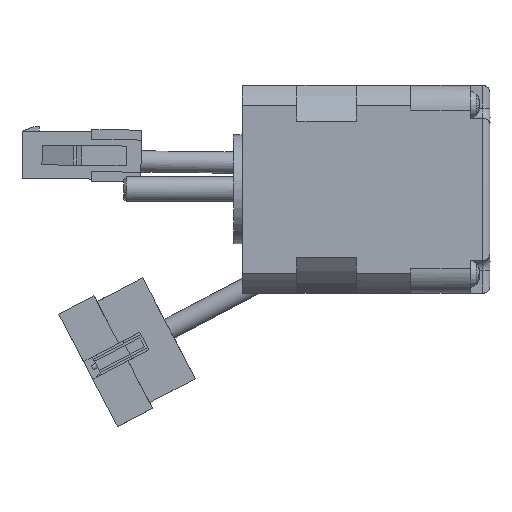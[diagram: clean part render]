
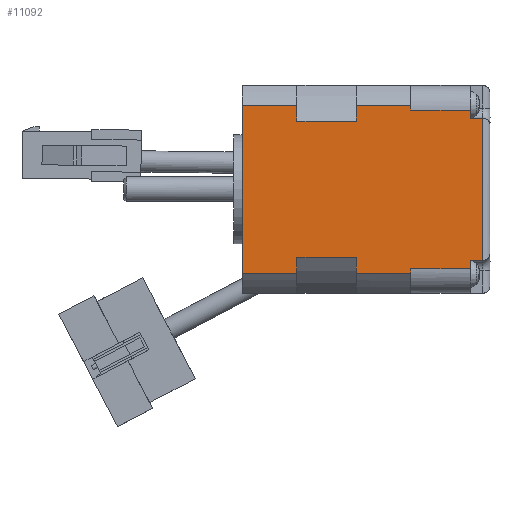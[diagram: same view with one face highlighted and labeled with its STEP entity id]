
A CAD part, front view. The second image highlights one B-rep face of the part: STEP entity #11092.
In plain terms, the highlighted planar face has unit normal (0, -1, 0).
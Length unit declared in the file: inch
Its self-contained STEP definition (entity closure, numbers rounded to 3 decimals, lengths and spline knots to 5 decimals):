
#50=LINE('',#16056,#1049);
#54=LINE('',#16066,#1053);
#82=LINE('',#16316,#1081);
#708=LINE('',#18412,#1707);
#710=LINE('',#18418,#1709);
#711=LINE('',#18422,#1710);
#713=LINE('',#18428,#1712);
#718=LINE('',#18448,#1717);
#720=LINE('',#18454,#1719);
#722=LINE('',#18460,#1721);
#724=LINE('',#18467,#1723);
#726=LINE('',#18472,#1725);
#756=LINE('',#18555,#1755);
#757=LINE('',#18558,#1756);
#758=LINE('',#18559,#1757);
#759=LINE('',#18561,#1758);
#760=LINE('',#18562,#1759);
#761=LINE('',#18564,#1760);
#762=LINE('',#18566,#1761);
#763=LINE('',#18567,#1762);
#1049=VECTOR('',#12646,0.06299);
#1053=VECTOR('',#12656,0.09843);
#1081=VECTOR('',#12822,0.06299);
#1707=VECTOR('',#14650,0.47244);
#1709=VECTOR('',#14656,0.12615);
#1710=VECTOR('',#14661,0.43307);
#1712=VECTOR('',#14667,1.33626);
#1717=VECTOR('',#14686,0.43307);
#1719=VECTOR('',#14692,0.12615);
#1721=VECTOR('',#14698,0.47244);
#1723=VECTOR('',#14706,0.12615);
#1725=VECTOR('',#14710,0.12615);
#1755=VECTOR('',#14778,0.43307);
#1756=VECTOR('',#14781,0.03821);
#1757=VECTOR('',#14782,0.47244);
#1758=VECTOR('',#14783,0.09843);
#1759=VECTOR('',#14784,1.13386);
#1760=VECTOR('',#14785,0.47244);
#1761=VECTOR('',#14786,0.03821);
#1762=VECTOR('',#14787,0.43307);
#2726=PLANE('',#12098);
#3269=FACE_OUTER_BOUND('',#4008,.T.);
#4008=EDGE_LOOP('',(#9624,#9625,#9626,#9627,#9628,#9629,#9630,#9631,#9632,
#9633,#9634,#9635,#9636,#9637,#9638,#9639,#9640,#9641,#9642,#9643));
#4914=VERTEX_POINT('',#16053);
#4915=VERTEX_POINT('',#16055);
#4918=VERTEX_POINT('',#16065);
#4972=VERTEX_POINT('',#16313);
#4973=VERTEX_POINT('',#16315);
#5585=VERTEX_POINT('',#18409);
#5586=VERTEX_POINT('',#18411);
#5588=VERTEX_POINT('',#18417);
#5589=VERTEX_POINT('',#18421);
#5591=VERTEX_POINT('',#18427);
#5599=VERTEX_POINT('',#18447);
#5601=VERTEX_POINT('',#18453);
#5603=VERTEX_POINT('',#18459);
#5605=VERTEX_POINT('',#18465);
#5607=VERTEX_POINT('',#18471);
#5635=VERTEX_POINT('',#18553);
#5636=VERTEX_POINT('',#18557);
#5637=VERTEX_POINT('',#18560);
#5638=VERTEX_POINT('',#18563);
#5639=VERTEX_POINT('',#18565);
#5986=EDGE_CURVE('',#4915,#4914,#50,.T.);
#5991=EDGE_CURVE('',#4918,#4915,#54,.T.);
#6071=EDGE_CURVE('',#4973,#4972,#82,.T.);
#6969=EDGE_CURVE('',#5585,#5586,#708,.T.);
#6972=EDGE_CURVE('',#5586,#5588,#710,.T.);
#6974=EDGE_CURVE('',#5588,#5589,#711,.T.);
#6977=EDGE_CURVE('',#5589,#5591,#713,.T.);
#6988=EDGE_CURVE('',#5591,#5599,#718,.T.);
#6991=EDGE_CURVE('',#5599,#5601,#720,.T.);
#6994=EDGE_CURVE('',#5601,#5603,#722,.T.);
#6998=EDGE_CURVE('',#5605,#5585,#724,.T.);
#7000=EDGE_CURVE('',#5603,#5607,#726,.T.);
#7043=EDGE_CURVE('',#5635,#5605,#756,.T.);
#7044=EDGE_CURVE('',#5635,#5636,#757,.T.);
#7045=EDGE_CURVE('',#4973,#5636,#758,.T.);
#7046=EDGE_CURVE('',#4972,#5637,#759,.T.);
#7047=EDGE_CURVE('',#5637,#4918,#760,.T.);
#7048=EDGE_CURVE('',#4914,#5638,#761,.T.);
#7049=EDGE_CURVE('',#5638,#5639,#762,.T.);
#7050=EDGE_CURVE('',#5607,#5639,#763,.T.);
#9624=ORIENTED_EDGE('',*,*,#7043,.F.);
#9625=ORIENTED_EDGE('',*,*,#7044,.T.);
#9626=ORIENTED_EDGE('',*,*,#7045,.F.);
#9627=ORIENTED_EDGE('',*,*,#6071,.T.);
#9628=ORIENTED_EDGE('',*,*,#7046,.T.);
#9629=ORIENTED_EDGE('',*,*,#7047,.T.);
#9630=ORIENTED_EDGE('',*,*,#5991,.T.);
#9631=ORIENTED_EDGE('',*,*,#5986,.T.);
#9632=ORIENTED_EDGE('',*,*,#7048,.T.);
#9633=ORIENTED_EDGE('',*,*,#7049,.T.);
#9634=ORIENTED_EDGE('',*,*,#7050,.F.);
#9635=ORIENTED_EDGE('',*,*,#7000,.F.);
#9636=ORIENTED_EDGE('',*,*,#6994,.F.);
#9637=ORIENTED_EDGE('',*,*,#6991,.F.);
#9638=ORIENTED_EDGE('',*,*,#6988,.F.);
#9639=ORIENTED_EDGE('',*,*,#6977,.F.);
#9640=ORIENTED_EDGE('',*,*,#6974,.F.);
#9641=ORIENTED_EDGE('',*,*,#6972,.F.);
#9642=ORIENTED_EDGE('',*,*,#6969,.F.);
#9643=ORIENTED_EDGE('',*,*,#6998,.F.);
#11092=ADVANCED_FACE('',(#3269),#2726,.F.);
#12098=AXIS2_PLACEMENT_3D('',#18556,#14779,#14780);
#12646=DIRECTION('',(0.,0.,1.));
#12656=DIRECTION('',(-1.,0.,0.));
#12822=DIRECTION('',(0.,0.,1.));
#14650=DIRECTION('',(-1.,0.,0.));
#14656=DIRECTION('',(0.,0.,-1.));
#14661=DIRECTION('',(-1.,0.,0.));
#14667=DIRECTION('',(0.,0.,1.));
#14686=DIRECTION('',(1.,0.,0.));
#14692=DIRECTION('',(0.,0.,-1.));
#14698=DIRECTION('',(1.,0.,0.));
#14706=DIRECTION('',(0.,0.,1.));
#14710=DIRECTION('',(0.,0.,1.));
#14778=DIRECTION('',(-1.,0.,0.));
#14779=DIRECTION('center_axis',(0.,1.,0.));
#14780=DIRECTION('ref_axis',(0.,0.,-1.));
#14781=DIRECTION('',(0.,0.,1.));
#14782=DIRECTION('',(-1.,0.,0.));
#14783=DIRECTION('',(1.,0.,0.));
#14784=DIRECTION('',(0.,0.,1.));
#14785=DIRECTION('',(-1.,0.,0.));
#14786=DIRECTION('',(0.,0.,1.));
#14787=DIRECTION('',(1.,0.,0.));
#16053=CARTESIAN_POINT('',(2.2577,1.02042,1.45669));
#16055=CARTESIAN_POINT('',(2.2577,1.02042,1.3937));
#16056=CARTESIAN_POINT('',(2.2577,1.02042,1.45669));
#16065=CARTESIAN_POINT('',(2.35613,1.02042,1.3937));
#16066=CARTESIAN_POINT('',(1.78526,1.02042,1.3937));
#16313=CARTESIAN_POINT('',(2.2577,1.02042,0.25984));
#16315=CARTESIAN_POINT('',(2.2577,1.02042,0.19685));
#16316=CARTESIAN_POINT('',(2.2577,1.02042,-1.39657));
#18409=CARTESIAN_POINT('',(1.35219,1.02042,0.28479));
#18411=CARTESIAN_POINT('',(0.87975,1.02042,0.28479));
#18412=CARTESIAN_POINT('',(0.44668,1.02042,0.28479));
#18417=CARTESIAN_POINT('',(0.87975,1.02042,0.15864));
#18418=CARTESIAN_POINT('',(0.87975,1.02042,0.15864));
#18421=CARTESIAN_POINT('',(0.44668,1.02042,0.15864));
#18422=CARTESIAN_POINT('',(0.44668,1.02042,0.15864));
#18427=CARTESIAN_POINT('',(0.44668,1.02042,1.4949));
#18428=CARTESIAN_POINT('',(0.44668,1.02042,0.15864));
#18447=CARTESIAN_POINT('',(0.87975,1.02042,1.4949));
#18448=CARTESIAN_POINT('',(0.44668,1.02042,1.4949));
#18453=CARTESIAN_POINT('',(0.87975,1.02042,1.36875));
#18454=CARTESIAN_POINT('',(0.87975,1.02042,0.15864));
#18459=CARTESIAN_POINT('',(1.35219,1.02042,1.36875));
#18460=CARTESIAN_POINT('',(0.44668,1.02042,1.36875));
#18465=CARTESIAN_POINT('',(1.35219,1.02042,0.15864));
#18467=CARTESIAN_POINT('',(1.35219,1.02042,0.15864));
#18471=CARTESIAN_POINT('',(1.35219,1.02042,1.4949));
#18472=CARTESIAN_POINT('',(1.35219,1.02042,0.15864));
#18553=CARTESIAN_POINT('',(1.78526,1.02042,0.15864));
#18555=CARTESIAN_POINT('',(0.44668,1.02042,0.15864));
#18556=CARTESIAN_POINT('Origin',(0.44668,1.02042,0.15864));
#18557=CARTESIAN_POINT('',(1.78526,1.02042,0.19685));
#18558=CARTESIAN_POINT('',(1.78526,1.02042,0.82677));
#18559=CARTESIAN_POINT('',(1.78526,1.02042,0.19685));
#18560=CARTESIAN_POINT('',(2.35613,1.02042,0.25984));
#18561=CARTESIAN_POINT('',(1.78526,1.02042,0.25984));
#18562=CARTESIAN_POINT('',(2.35613,1.02042,-1.39657));
#18563=CARTESIAN_POINT('',(1.78526,1.02042,1.45669));
#18564=CARTESIAN_POINT('',(1.78526,1.02042,1.45669));
#18565=CARTESIAN_POINT('',(1.78526,1.02042,1.4949));
#18566=CARTESIAN_POINT('',(1.78526,1.02042,0.82677));
#18567=CARTESIAN_POINT('',(0.44668,1.02042,1.4949));
